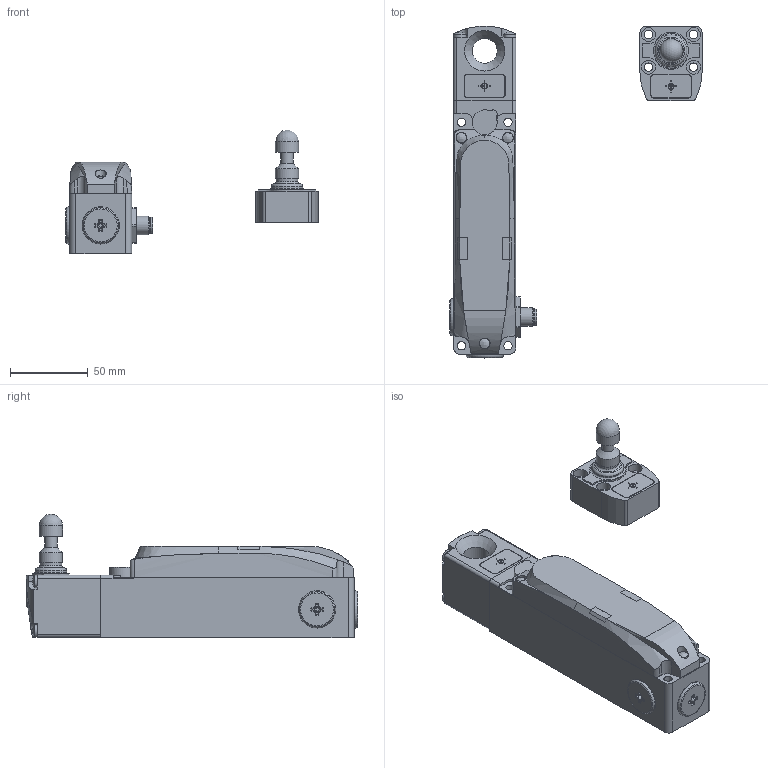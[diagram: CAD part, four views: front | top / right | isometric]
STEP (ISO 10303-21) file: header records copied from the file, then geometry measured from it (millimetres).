
FILE_DESCRIPTION(/* description */ (''),/* implementation_level */ '2;1');
FILE_NAME(/* name */ '3DCAD_L300_B3_M31M12B8Y2_MLM24_SCA.stp',/* time_stamp */ '2025-09-15T10:55:31+02:00',/* author */ ('CC2'),/* organization */ ('Leuze electronic'),/* preprocessor_version */ 'ST-DEVELOPER v19.4',/* originating_system */ 'SIEMENS PLM Software NX2306.9180',/* authorisation */ '');
FILE_SCHEMA (('AUTOMOTIVE_DESIGN { 1 0 10303 214 3 1 1 1 }'));
Length unit declared in the file: millimetre
Products named in the file (1): 19-103950_00_1-3DCAD_L300_B3_M31M12B8Y2_MLM24_SCA
Bounding box: 162.4 x 213.8 x 79.65 mm (x, y, z)
Volume: 455823.9 mm3; surface area: 76121.6 mm2
Topology: 4 solids, 7 shells, 494 faces, 1205 edges, 742 vertices
Faces by surface type: plane 204, cylinder 197, torus 54, sphere 22, bspline 13, cone 4
Full cylindrical faces by diameter (mm): 3.8 x3, 5.4 x8, 6.6 x3, 6.9 x3, 8 x5, 8.3 x1, 9 x4, 10.4 x1, 10.6 x1, 12 x1, 14 x1, 15 x2, 16 x1, 20 x3, 20.4 x1, 24 x2
Entity records: 15907 total; most frequent: CARTESIAN_POINT 4665, DIRECTION 2348, ORIENTED_EDGE 2224, EDGE_CURVE 1112, AXIS2_PLACEMENT_3D 880, VERTEX_POINT 723, EDGE_LOOP 603, LINE 588
